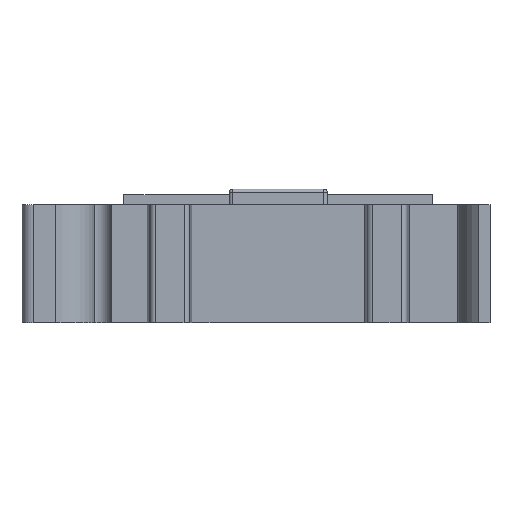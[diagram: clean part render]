
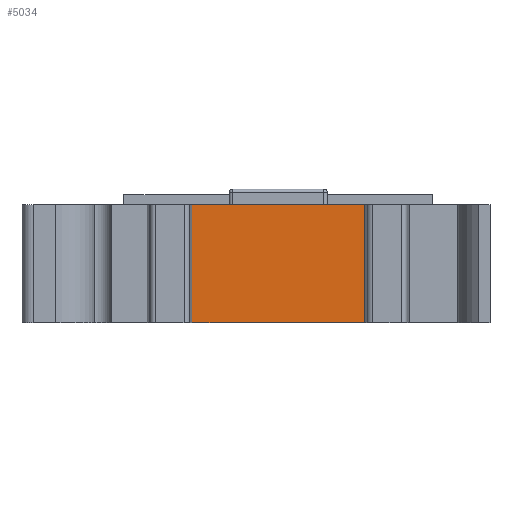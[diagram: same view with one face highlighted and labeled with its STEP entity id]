
A CAD part, front view. The second image highlights one B-rep face of the part: STEP entity #5034.
In plain terms, the highlighted planar face has unit normal (0, -1, 0).
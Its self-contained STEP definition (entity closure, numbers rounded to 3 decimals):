
#642=FACE_OUTER_BOUND('',#938,.T.);
#938=EDGE_LOOP('',(#4359,#4360,#4361,#4362));
#1064=LINE('',#7214,#1572);
#1118=LINE('',#7388,#1626);
#1365=LINE('',#8229,#1873);
#1433=LINE('',#8399,#1941);
#1572=VECTOR('',#5689,15.5);
#1626=VECTOR('',#5849,15.5);
#1873=VECTOR('',#6524,10.6);
#1941=VECTOR('',#6760,10.6);
#2094=VERTEX_POINT('',#7211);
#2095=VERTEX_POINT('',#7213);
#2161=VERTEX_POINT('',#7385);
#2162=VERTEX_POINT('',#7387);
#2560=EDGE_CURVE('',#2094,#2095,#1064,.T.);
#2646=EDGE_CURVE('',#2161,#2162,#1118,.T.);
#3001=EDGE_CURVE('',#2162,#2094,#1365,.T.);
#3077=EDGE_CURVE('',#2161,#2095,#1433,.T.);
#4359=ORIENTED_EDGE('',*,*,#3077,.T.);
#4360=ORIENTED_EDGE('',*,*,#2560,.F.);
#4361=ORIENTED_EDGE('',*,*,#3001,.F.);
#4362=ORIENTED_EDGE('',*,*,#2646,.F.);
#4766=PLANE('',#5481);
#5034=ADVANCED_FACE('',(#642),#4766,.T.);
#5481=AXIS2_PLACEMENT_3D('',#8400,#6761,#6762);
#5689=DIRECTION('',(-1.,0.,0.));
#5849=DIRECTION('',(1.,0.,0.));
#6524=DIRECTION('',(0.,0.,-1.));
#6760=DIRECTION('',(0.,0.,-1.));
#6761=DIRECTION('center_axis',(0.,-1.,0.));
#6762=DIRECTION('ref_axis',(-1.,0.,0.));
#7211=CARTESIAN_POINT('',(7.75,-25.5,-1.6));
#7213=CARTESIAN_POINT('',(-7.75,-25.5,-1.6));
#7214=CARTESIAN_POINT('',(7.75,-25.5,-1.6));
#7385=CARTESIAN_POINT('',(-7.75,-25.5,9.));
#7387=CARTESIAN_POINT('',(7.75,-25.5,9.));
#7388=CARTESIAN_POINT('',(7.75,-25.5,9.));
#8229=CARTESIAN_POINT('',(7.75,-25.5,0.));
#8399=CARTESIAN_POINT('',(-7.75,-25.5,0.));
#8400=CARTESIAN_POINT('Origin',(7.75,-25.5,0.));
